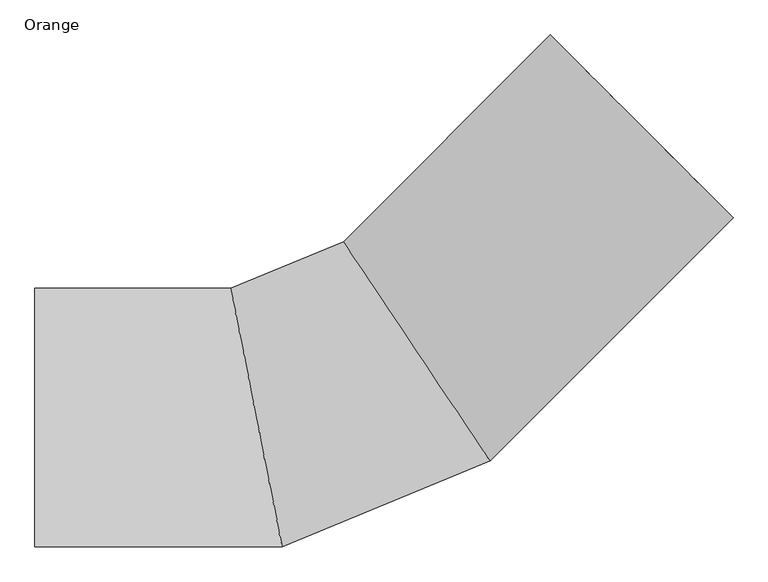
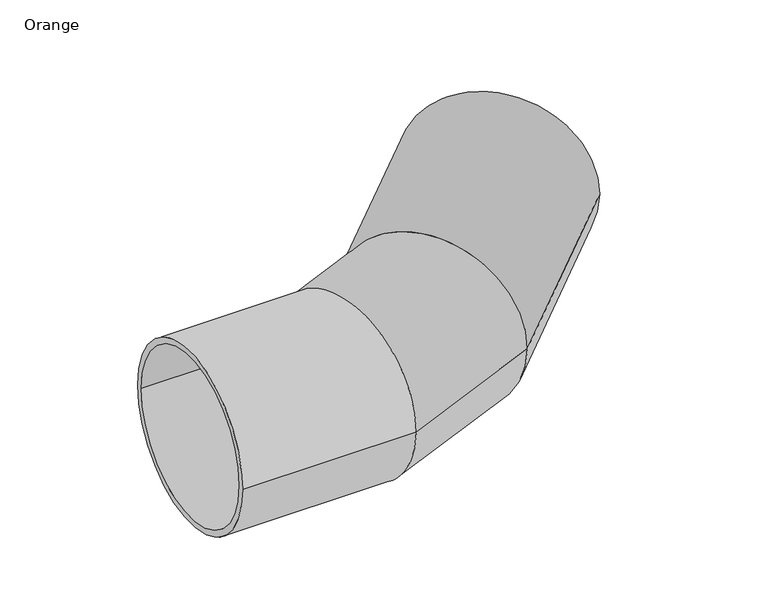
"""IFC4 building model written with IfcOpenShell, lengths in millimetres: pipe fitting geometry, AWADUKT PP SN10 SBend : Orange."""

from ifc_helpers import new_model, si_unit, frame, origin, place, context, project, spatial, polyline, circle_curve, ellipse_curve, source, transform, mapped, element, save
from ifc_brep_helpers import plane_surface, cylinder_surface, revolved_surface, advanced_brep


def orange_d04369bb(model_context):
    return source(origin(), model_context, "Body", "AdvancedBrep", [
        advanced_brep(
        [(487.1965722, 932.6738444, 0.0), (932.6738444, 487.1965722, 0.0), (502.4700787, 917.4003379, 0.0), (917.4003379, 502.4700787, 0.0), (-4.2843893, 410.6458699, 0.0), (328.1111098, -86.8191494, 0.0), (-16.5198064, 428.9574657, 0.0), (340.3465269, -105.1307452, 0.0), (-287.3409586, 293.4, 0.0), (-170.6191814, -293.4, 0.0), (-291.6374657, 315.0, 0.0), (-166.3226742, -315.0, 0.0), (-769.0, 315.0, 0.0), (-769.0, -315.0, 0.0), (-769.0, 293.4, 0.0), (-769.0, -293.4, 0.0)],
        [
            (0, 1, circle_curve(frame((709.9352083, 709.9352083, 0.0), z_axis=(0.7071067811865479, 0.7071067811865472, 0.0), x_axis=(0.7071067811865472, -0.7071067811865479, 0.0)), 315.0)),
            (1, 0, circle_curve(frame((709.9352083, 709.9352083, 0.0), z_axis=(0.7071067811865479, 0.7071067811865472, 0.0), x_axis=(0.7071067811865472, -0.7071067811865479, 0.0)), 315.0)),
            (2, 3, circle_curve(frame((709.9352083, 709.9352083, 0.0), z_axis=(-0.7071067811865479, -0.7071067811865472, 0.0), x_axis=(0.7071067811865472, -0.7071067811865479, 0.0)), 293.4)),
            (3, 2, circle_curve(frame((709.9352083, 709.9352083, 0.0), z_axis=(-0.7071067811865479, -0.7071067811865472, 0.0), x_axis=(0.7071067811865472, -0.7071067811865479, 0.0)), 293.4)),
            (2, 4),
            (4, 5, ellipse_curve(frame((161.9133602, 161.9133602, 0.0), z_axis=(-0.8314696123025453, -0.5555702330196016, 0.0), x_axis=(0.5555702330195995, -0.8314696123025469, 0.0)), 299.1480458, 293.4)),
            (5, 3),
            (5, 4, ellipse_curve(frame((161.9133602, 161.9133602, 0.0), z_axis=(-0.8314696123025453, -0.5555702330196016, 0.0), x_axis=(0.5555702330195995, -0.8314696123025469, 0.0)), 299.1480458, 293.4)),
            (0, 6),
            (6, 7, ellipse_curve(frame((161.9133602, 161.9133602, 0.0), z_axis=(0.8314696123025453, 0.5555702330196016, 0.0), x_axis=(-0.5555702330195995, 0.8314696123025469, 0.0)), 321.1712148, 315.0)),
            (7, 1),
            (7, 6, ellipse_curve(frame((161.9133602, 161.9133602, 0.0), z_axis=(0.8314696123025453, 0.5555702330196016, 0.0), x_axis=(-0.5555702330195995, 0.8314696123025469, 0.0)), 321.1712148, 315.0)),
            (4, 8),
            (8, 9, ellipse_curve(frame((-228.98007, 0.0, 0.0), z_axis=(-0.9807852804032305, -0.19509032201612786, 0.0), x_axis=(0.19509032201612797, -0.9807852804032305, 0.0)), 299.1480458, 293.4)),
            (9, 5),
            (9, 8, ellipse_curve(frame((-228.98007, 0.0, 0.0), z_axis=(-0.9807852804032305, -0.19509032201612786, 0.0), x_axis=(0.19509032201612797, -0.9807852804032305, 0.0)), 299.1480458, 293.4)),
            (6, 10),
            (10, 11, ellipse_curve(frame((-228.98007, 0.0, 0.0), z_axis=(0.9807852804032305, 0.19509032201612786, 0.0), x_axis=(-0.19509032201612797, 0.9807852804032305, 0.0)), 321.1712148, 315.0)),
            (11, 7),
            (11, 10, ellipse_curve(frame((-228.98007, 0.0, 0.0), z_axis=(0.9807852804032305, 0.19509032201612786, 0.0), x_axis=(-0.19509032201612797, 0.9807852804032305, 0.0)), 321.1712148, 315.0)),
            (12, 13, circle_curve(frame((-769.0, 0.0, 0.0), z_axis=(-1.0, 0.0, 0.0), x_axis=(0.0, -1.0, 0.0)), 315.0)),
            (13, 12, circle_curve(frame((-769.0, 0.0, 0.0), z_axis=(-1.0, 0.0, 0.0), x_axis=(0.0, -1.0, 0.0)), 315.0)),
            (14, 15, circle_curve(frame((-769.0, 0.0, 0.0), z_axis=(1.0, 0.0, 0.0), x_axis=(0.0, -1.0, 0.0)), 293.4)),
            (15, 14, circle_curve(frame((-769.0, 0.0, 0.0), z_axis=(1.0, 0.0, 0.0), x_axis=(0.0, -1.0, 0.0)), 293.4)),
            (8, 14),
            (15, 9),
            (10, 12),
            (13, 11),
        ],
        [
            plane_surface(frame((709.9352083, 709.9352083, 0.0), z_axis=(0.7071067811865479, 0.7071067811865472, 0.0), x_axis=(0.0, 0.0, 1.0))),
            revolved_surface(polyline([(328.1111097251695, -86.81914947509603, 0.0), (917.4003379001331, 502.4700786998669, 0.0)]), (709.9352083, 709.9352083, 0.0), (-0.7071067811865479, -0.7071067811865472, 0.0)),
            cylinder_surface(frame((709.9352083, 709.9352083, 0.0), z_axis=(0.7071067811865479, 0.7071067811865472, 0.0), x_axis=(0.7071067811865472, -0.7071067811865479, 0.0)), 315.0),
            revolved_surface(polyline([(-170.61918139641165, -293.40000002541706, 0.0), (328.11110981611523, -86.81914943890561, 0.0)]), (161.9133602, 161.9133602, 0.0), (-0.923879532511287, -0.38268343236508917, 0.0)),
            cylinder_surface(frame((161.9133602, 161.9133602, 0.0), z_axis=(0.923879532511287, 0.38268343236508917, 0.0), x_axis=(0.38268343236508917, -0.923879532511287, 0.0)), 315.0),
            plane_surface(frame((-769.0, 0.0, 0.0), z_axis=(-1.0, 0.0, 0.0), x_axis=(0.0, 0.0, 1.0))),
            revolved_surface(polyline([(-769.0, -293.4, 0.0), (-170.6191814, -293.4, 0.0)]), (-228.98007, 0.0, 0.0), (-1.0, 0.0, 0.0)),
            cylinder_surface(frame((-228.98007, 0.0, 0.0), z_axis=(1.0, 0.0, 0.0), x_axis=(0.0, -1.0, 0.0)), 315.0),
        ],
        [
            (0, [[1, 2], [3, 4]]),
            (1, [[-3, 5, 6, 7]]),
            (1, [[-4, -7, 8, -5]]),
            (2, [[-1, 9, 10, 11]]),
            (2, [[-2, -11, 12, -9]]),
            (3, [[-6, 13, 14, 15]]),
            (3, [[-8, -15, 16, -13]]),
            (4, [[-10, 17, 18, 19]]),
            (4, [[-12, -19, 20, -17]]),
            (5, [[21, 22], [23, 24]]),
            (6, [[-14, 25, -24, 26]]),
            (6, [[-16, -26, -23, -25]]),
            (7, [[-18, 27, -22, 28]]),
            (7, [[-20, -28, -21, -27]]),
        ],
    ),
    ])


if __name__ == "__main__":
    model = new_model("IFC4")
    model_context = context("Model", 3, world=origin())
    ifc_project = project(units=[si_unit("LENGTHUNIT", "METRE", prefix="MILLI")], contexts=[model_context])
    site = spatial("IfcSite", under=ifc_project)
    building = spatial("IfcBuilding", under=site)
    placement = place(None, origin())
    orange_shape = orange_d04369bb(model_context)
    element("IfcPipeFitting", 1, ObjectType="AWADUKT PP SN10 SBend : Orange", at=placement, inside=building, context=model_context, shape_type="MappedRepresentation", body=[
        mapped(orange_shape, transform((0.0, 0.0, 0.0), x_axis=(1.0, 0.0, 0.0), y_axis=(0.0, 1.0, 0.0), z_axis=(0.0, 0.0, 1.0))),
    ])
    save(model, "model.ifc")
